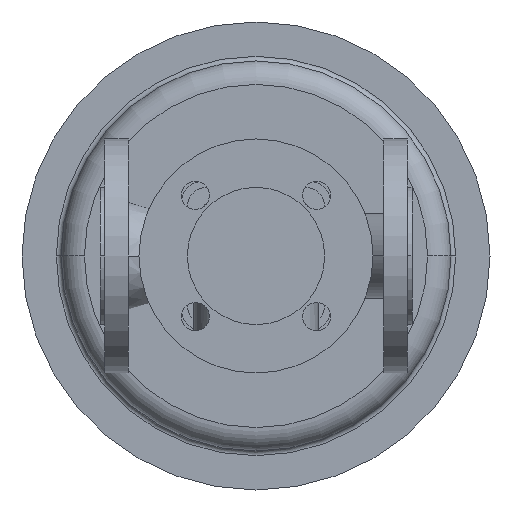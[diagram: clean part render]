
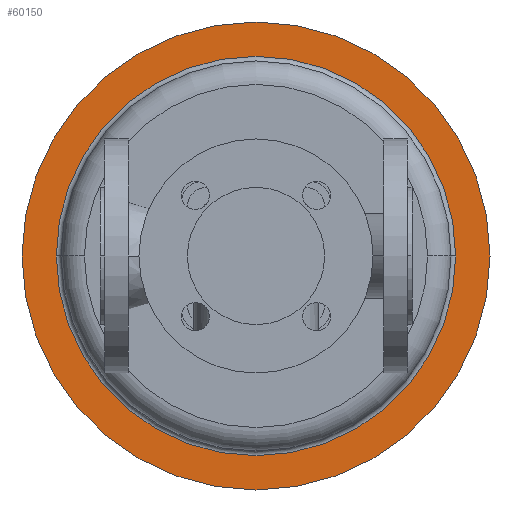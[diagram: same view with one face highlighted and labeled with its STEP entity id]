
A CAD part, front view. The second image highlights one B-rep face of the part: STEP entity #60150.
In plain terms, the highlighted planar face has unit normal (0, -1, 0).
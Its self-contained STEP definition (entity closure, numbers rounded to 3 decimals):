
#51560=CARTESIAN_POINT('',(-50.,621.3,0.));
#51570=VERTEX_POINT('',#51560);
#51600=CARTESIAN_POINT('',(100.,621.3,0.));
#51610=DIRECTION('',(0.,1.,0.));
#51620=DIRECTION('',(1.,0.,0.));
#51630=AXIS2_PLACEMENT_3D('',#51600,#51610,#51620);
#51640=CIRCLE('',#51630,150.);
#51650=CARTESIAN_POINT('',(250.,621.3,0.));
#51660=VERTEX_POINT('',#51650);
#51670=EDGE_CURVE('',#51660,#51570,#51640,.T.);
#51990=CARTESIAN_POINT('',(-28.,621.3,0.));
#52000=VERTEX_POINT('',#51990);
#52030=CARTESIAN_POINT('',(100.,621.3,0.));
#52040=DIRECTION('',(0.,1.,0.));
#52050=DIRECTION('',(1.,0.,0.));
#52060=AXIS2_PLACEMENT_3D('',#52030,#52040,#52050);
#52070=CIRCLE('',#52060,128.);
#52080=CARTESIAN_POINT('',(100.,621.3,128.));
#52090=VERTEX_POINT('',#52080);
#52100=EDGE_CURVE('',#52000,#52090,#52070,.T.);
#52120=CARTESIAN_POINT('',(228.,621.3,0.));
#52130=VERTEX_POINT('',#52120);
#52140=EDGE_CURVE('',#52090,#52130,#52070,.T.);
#59990=CARTESIAN_POINT('',(239.,621.3,0.));
#60000=DIRECTION('',(0.,-1.,0.));
#60010=DIRECTION('',(-1.,0.,0.));
#60020=AXIS2_PLACEMENT_3D('',#59990,#60000,#60010);
#60030=PLANE('',#60020);
#60040=EDGE_CURVE('',#51570,#51660,#51640,.T.);
#60050=ORIENTED_EDGE('',*,*,#60040,.F.);
#60060=ORIENTED_EDGE('',*,*,#51670,.F.);
#60070=EDGE_LOOP('',(#60060,#60050));
#60080=FACE_OUTER_BOUND('',#60070,.T.);
#60090=EDGE_CURVE('',#52130,#52000,#52070,.T.);
#60100=ORIENTED_EDGE('',*,*,#60090,.T.);
#60110=ORIENTED_EDGE('',*,*,#52140,.T.);
#60120=ORIENTED_EDGE('',*,*,#52100,.T.);
#60130=EDGE_LOOP('',(#60120,#60110,#60100));
#60140=FACE_BOUND('',#60130,.T.);
#60150=ADVANCED_FACE('',(#60080,#60140),#60030,.T.);
